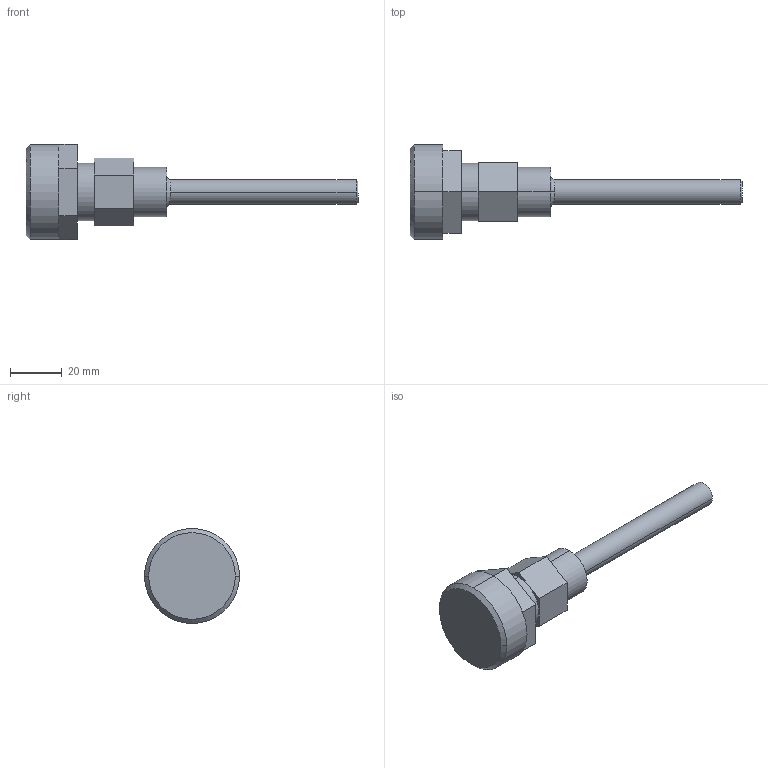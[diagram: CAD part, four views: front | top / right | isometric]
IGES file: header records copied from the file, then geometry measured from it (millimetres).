
Start section: SolidWorks IGES file using analytic representation for surfaces
Global section: file name: S:\Product Visuals\REVISED-30L-TOP-MOUNT-FITTINGS\IGS\top-straight-outlet-only\tubeout\06-tube-out-with-top-mount-adapter.IGS; native system: SolidWorks 2012; preprocessor: SolidWorks 2012; author: Rachel.Dressel; date: 121128.082926; units: inch
Bounding box: 127.94 x 36.6 x 36.66 mm (x, y, z)
Volume: 37578.8 mm3; surface area: 8927.7 mm2
Topology: 1 solids, 1 shells, 45 faces, 102 edges, 63 vertices
Faces by surface type: plane 30, revolution 14, bspline 1
